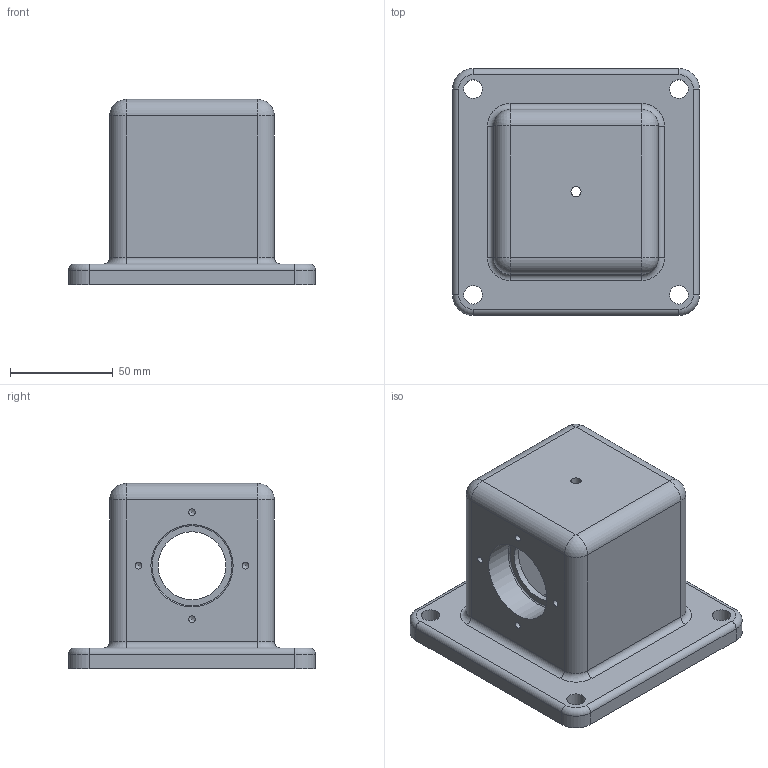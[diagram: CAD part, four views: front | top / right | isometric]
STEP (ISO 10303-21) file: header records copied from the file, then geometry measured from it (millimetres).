
FILE_DESCRIPTION(/* description */ (''),/* implementation_level */ '2;1');
FILE_NAME(/* name */ 'C:\Users\now\Desktop\시험문제\381109E1015-동력전달장치.stp',/* time_stamp */ '2018-11-10T11:58:15+09:00',/* author */ ('now'),/* organization */ (''),/* preprocessor_version */ 'ST-DEVELOPER v15.6',/* originating_system */ 'Autodesk Inventor 2015',/* authorisation */ '');
FILE_SCHEMA (('AUTOMOTIVE_DESIGN { 1 0 10303 214 3 1 1 }'));
Length unit declared in the file: millimetre
Products named in the file (1): 381109E1015-동력전달장치
Bounding box: 120 x 120 x 90 mm (x, y, z)
Volume: 382495.2 mm3; surface area: 73921.5 mm2
Topology: 1 solids, 1 shells, 97 faces, 236 edges, 157 vertices
Faces by surface type: cylinder 49, plane 18, torus 14, sphere 8, cone 8
Full cylindrical faces by diameter (mm): 3.242 x8, 4.917 x1, 9 x4, 33 x2, 40 x2
Entity records: 2613 total; most frequent: DIRECTION 512, CARTESIAN_POINT 434, ORIENTED_EDGE 360, AXIS2_PLACEMENT_3D 218, EDGE_CURVE 180, EDGE_LOOP 142, CIRCLE 120, VERTEX_POINT 116
